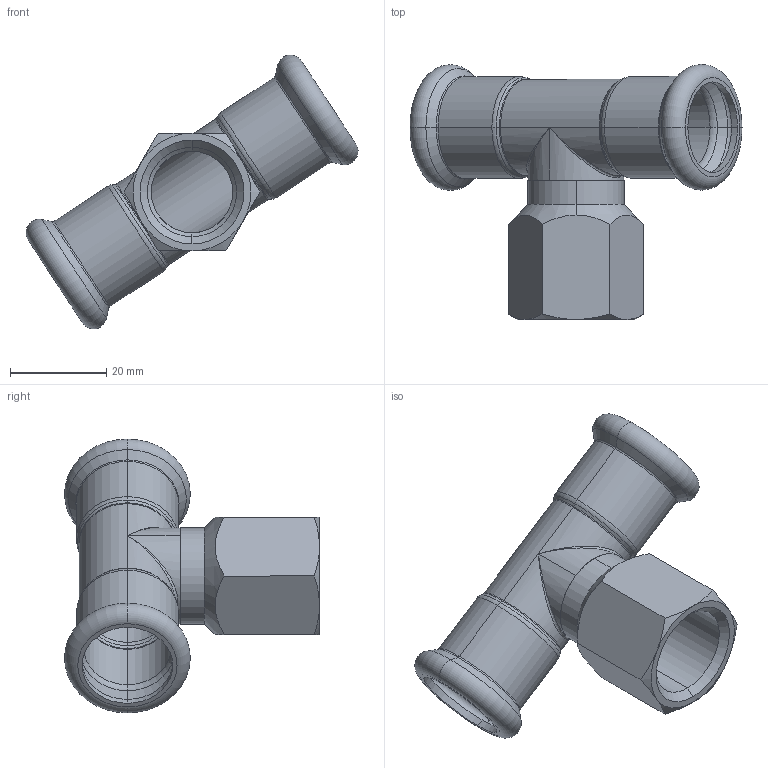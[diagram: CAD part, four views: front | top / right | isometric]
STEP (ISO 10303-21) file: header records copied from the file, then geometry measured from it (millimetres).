
FILE_DESCRIPTION (( 'STEP AP203' ), '1' );
FILE_NAME ('GDA5242.STEP', '2019-01-10T02:34:07', ( '' ), ( '' ), 'SwSTEP 2.0', 'SolidWorks 2015', '' );
FILE_SCHEMA (( 'CONFIG_CONTROL_DESIGN' ));
Length unit declared in the file: millimetre
Products named in the file (3): ITC-I-03-18℅?; GDA5242; ITCT18｡ﾁ?
Assembly tree (2 placements, depth 2):
  GDA5242
    ITC-I-03-18℅?
    ITCT18｡ﾁ?
Bounding box: 69.13 x 53.1 x 57.01 mm (x, y, z)
Volume: 12986.6 mm3; surface area: 13576.7 mm2
Topology: 2 solids, 2 shells, 105 faces, 222 edges, 114 vertices
Faces by surface type: torus 32, cone 28, cylinder 28, plane 13, bspline 4
Entity records: 3449 total; most frequent: CARTESIAN_POINT 942, DIRECTION 526, ORIENTED_EDGE 428, AXIS2_PLACEMENT_3D 234, EDGE_CURVE 214, CIRCLE 128, VERTEX_POINT 114, EDGE_LOOP 112
